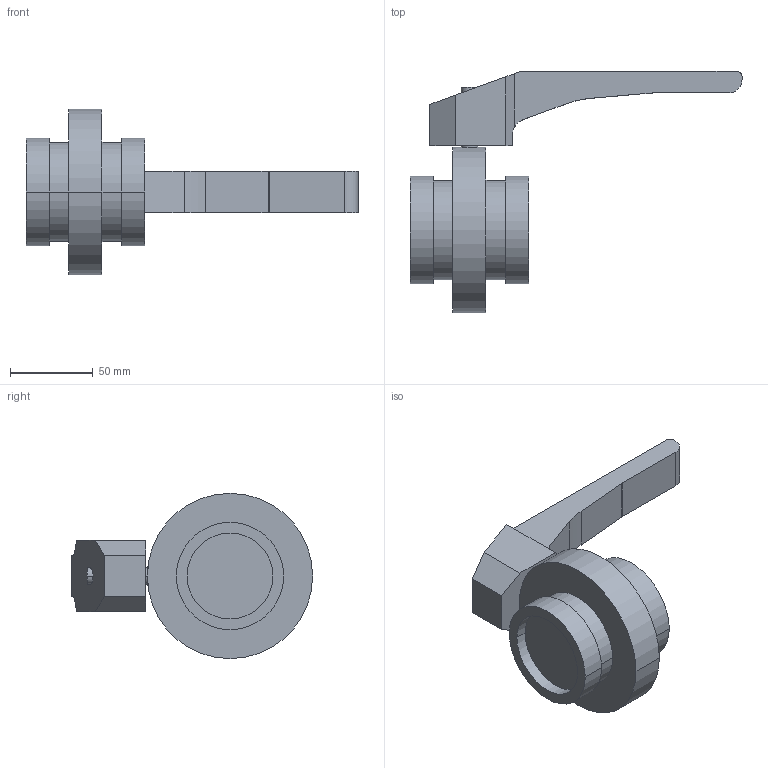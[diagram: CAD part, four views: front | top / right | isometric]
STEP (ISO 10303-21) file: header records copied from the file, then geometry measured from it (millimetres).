
FILE_DESCRIPTION(('Creo Elements/Direct Modeling STEP Export'),'2;1');
FILE_NAME('SV1-40-H-12G.stp','2015-10-29T13:07:31',(''),(''),'PTC Creo Elements/Direct Modeling STEP processor for AP214 (Solid Model)','PTC Creo Elements/Direct Modeling 19.0B 21-Mar-2015 (C) Parametric Technology GmbH','');
FILE_SCHEMA(('AUTOMOTIVE_DESIGN { 1 0 10303 214 1 1 1 1 }'));
Length unit declared in the file: millimetre
Products named in the file (3): SV1-40-H-12G; HANDHEBEL-SV-40-100
Assembly tree (2 placements, depth 2):
  SV1-40-H-12G
    HANDHEBEL-SV-40-100
    SV1-40-H-12G
Bounding box: 201 x 146 x 100 mm (x, y, z)
Volume: 415317.4 mm3; surface area: 57551.8 mm2
Topology: 2 solids, 2 shells, 50 faces, 115 edges, 76 vertices
Faces by surface type: plane 27, cylinder 23
Entity records: 1478 total; most frequent: CARTESIAN_POINT 297, ORIENTED_EDGE 230, DIRECTION 227, EDGE_CURVE 115, AXIS2_PLACEMENT_3D 81, VERTEX_POINT 76, VECTOR 65, LINE 65
